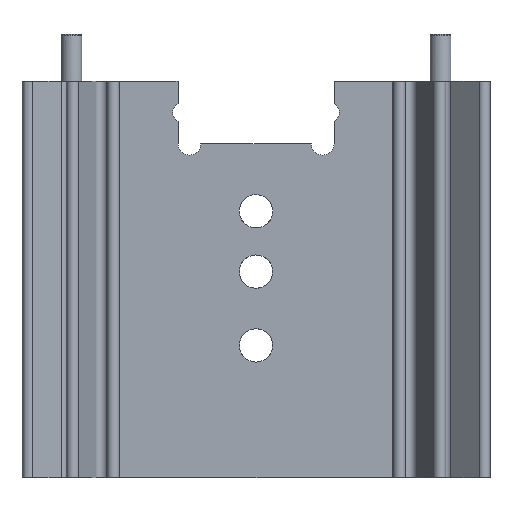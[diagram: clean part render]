
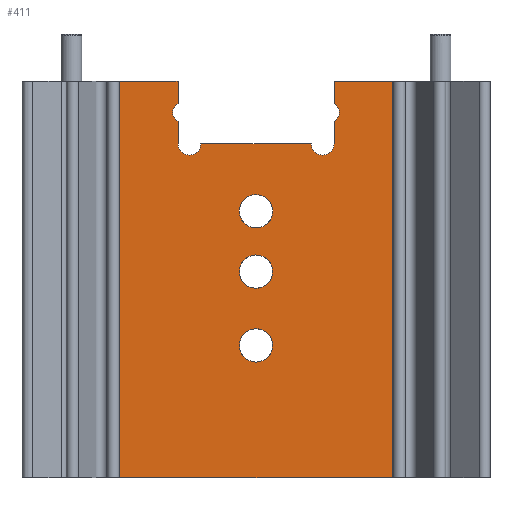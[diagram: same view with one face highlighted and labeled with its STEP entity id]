
A CAD part, front view. The second image highlights one B-rep face of the part: STEP entity #411.
In plain terms, the highlighted planar face has unit normal (0, -1, 0).
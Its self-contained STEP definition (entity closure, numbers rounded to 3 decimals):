
#112=CARTESIAN_POINT('',(1.6,-0.002,12.7));
#113=VERTEX_POINT('',#112);
#114=CARTESIAN_POINT('',(0.,-0.002,12.7));
#115=DIRECTION('',(0.,1.,0.0));
#116=DIRECTION('',(-1.,0.,0.0));
#117=AXIS2_PLACEMENT_3D('',#114,#115,#116);
#118=ELLIPSE('',#117,1.6,1.6);
#119=EDGE_CURVE('',#113,#113,#118,.T.);
#140=CARTESIAN_POINT('',(1.6,-0.002,19.8));
#141=VERTEX_POINT('',#140);
#142=CARTESIAN_POINT('',(0.,-0.002,19.8));
#143=DIRECTION('',(0.,1.,0.0));
#144=DIRECTION('',(-1.,0.,0.0));
#145=AXIS2_PLACEMENT_3D('',#142,#143,#144);
#146=ELLIPSE('',#145,1.6,1.6);
#147=EDGE_CURVE('',#141,#141,#146,.T.);
#168=CARTESIAN_POINT('',(1.6,-0.002,25.6));
#169=VERTEX_POINT('',#168);
#170=CARTESIAN_POINT('',(0.,-0.002,25.6));
#171=DIRECTION('',(0.,1.,0.0));
#172=DIRECTION('',(-1.,0.,0.0));
#173=AXIS2_PLACEMENT_3D('',#170,#171,#172);
#174=ELLIPSE('',#173,1.6,1.6);
#175=EDGE_CURVE('',#169,#169,#174,.T.);
#196=CARTESIAN_POINT('',(-7.5,-0.001,34.234));
#197=VERTEX_POINT('',#196);
#198=CARTESIAN_POINT('',(-7.5,-0.001,35.966));
#199=VERTEX_POINT('',#198);
#200=CARTESIAN_POINT('',(-7.,-0.001,35.1));
#201=DIRECTION('',(0.,1.,0.0));
#202=DIRECTION('',(-1.,0.,0.));
#203=AXIS2_PLACEMENT_3D('',#200,#201,#202);
#204=ELLIPSE('',#203,1.,1.0);
#205=EDGE_CURVE('',#197,#199,#204,.T.);
#238=CARTESIAN_POINT('',(7.5,-0.003,35.966));
#239=VERTEX_POINT('',#238);
#240=CARTESIAN_POINT('',(7.5,-0.003,34.234));
#241=VERTEX_POINT('',#240);
#242=CARTESIAN_POINT('',(7.,-0.003,35.1));
#243=DIRECTION('',(0.,1.,0.0));
#244=DIRECTION('',(1.,0.,0.));
#245=AXIS2_PLACEMENT_3D('',#242,#243,#244);
#246=ELLIPSE('',#245,1.,1.0);
#247=EDGE_CURVE('',#239,#241,#246,.T.);
#289=CARTESIAN_POINT('',(-7.5,-0.001,38.1));
#290=VERTEX_POINT('',#289);
#297=CARTESIAN_POINT('',(-7.5,-0.001,35.966));
#298=DIRECTION('',(0.0,0.0,1.0));
#299=VECTOR('',#298,2.134);
#300=LINE('',#297,#299);
#301=EDGE_CURVE('',#199,#290,#300,.T.);
#306=CARTESIAN_POINT('',(13.099,-0.004,0.0));
#307=DIRECTION('',(0.,-1.,0.0));
#308=DIRECTION('',(0.0,0.0,-1.0));
#309=AXIS2_PLACEMENT_3D('',#306,#307,#308);
#310=PLANE('',#309);
#311=ORIENTED_EDGE('',*,*,#205,.T.);
#312=ORIENTED_EDGE('',*,*,#301,.T.);
#313=CARTESIAN_POINT('',(-13.101,0.,38.1));
#314=VERTEX_POINT('',#313);
#315=CARTESIAN_POINT('',(-7.5,-0.001,38.1));
#316=DIRECTION('',(-1.,0.,0.0));
#317=VECTOR('',#316,5.601);
#318=LINE('',#315,#317);
#319=EDGE_CURVE('',#290,#314,#318,.T.);
#320=ORIENTED_EDGE('',*,*,#319,.T.);
#321=CARTESIAN_POINT('',(-13.101,0.,0.0));
#322=VERTEX_POINT('',#321);
#323=CARTESIAN_POINT('',(-13.101,0.,0.0));
#324=DIRECTION('',(0.0,0.0,1.0));
#325=VECTOR('',#324,38.1);
#326=LINE('',#323,#325);
#327=EDGE_CURVE('',#322,#314,#326,.T.);
#328=ORIENTED_EDGE('',*,*,#327,.F.);
#329=CARTESIAN_POINT('',(13.099,-0.004,0.0));
#330=VERTEX_POINT('',#329);
#331=CARTESIAN_POINT('',(13.099,-0.004,0.0));
#332=DIRECTION('',(-1.,0.,0.0));
#333=VECTOR('',#332,26.2);
#334=LINE('',#331,#333);
#335=EDGE_CURVE('',#330,#322,#334,.T.);
#336=ORIENTED_EDGE('',*,*,#335,.F.);
#337=CARTESIAN_POINT('',(13.099,-0.004,38.1));
#338=VERTEX_POINT('',#337);
#339=CARTESIAN_POINT('',(13.099,-0.004,0.0));
#340=DIRECTION('',(0.0,0.0,1.0));
#341=VECTOR('',#340,38.1);
#342=LINE('',#339,#341);
#343=EDGE_CURVE('',#330,#338,#342,.T.);
#344=ORIENTED_EDGE('',*,*,#343,.T.);
#345=CARTESIAN_POINT('',(7.5,-0.003,38.1));
#346=VERTEX_POINT('',#345);
#347=CARTESIAN_POINT('',(13.099,-0.004,38.1));
#348=DIRECTION('',(-1.,0.,0.0));
#349=VECTOR('',#348,5.599);
#350=LINE('',#347,#349);
#351=EDGE_CURVE('',#338,#346,#350,.T.);
#352=ORIENTED_EDGE('',*,*,#351,.T.);
#353=CARTESIAN_POINT('',(7.5,-0.003,38.1));
#354=DIRECTION('',(0.0,0.0,-1.0));
#355=VECTOR('',#354,2.134);
#356=LINE('',#353,#355);
#357=EDGE_CURVE('',#346,#239,#356,.T.);
#358=ORIENTED_EDGE('',*,*,#357,.T.);
#359=ORIENTED_EDGE('',*,*,#247,.T.);
#360=CARTESIAN_POINT('',(7.5,-0.003,32.1));
#361=VERTEX_POINT('',#360);
#362=CARTESIAN_POINT('',(7.5,-0.003,34.234));
#363=DIRECTION('',(0.0,0.0,-1.0));
#364=VECTOR('',#363,2.134);
#365=LINE('',#362,#364);
#366=EDGE_CURVE('',#241,#361,#365,.T.);
#367=ORIENTED_EDGE('',*,*,#366,.T.);
#368=CARTESIAN_POINT('',(5.3,-0.003,32.1));
#369=VERTEX_POINT('',#368);
#370=CARTESIAN_POINT('',(6.4,-0.003,32.1));
#371=DIRECTION('',(0.,1.,0.0));
#372=DIRECTION('',(-1.,0.,0.0));
#373=AXIS2_PLACEMENT_3D('',#370,#371,#372);
#374=ELLIPSE('',#373,1.1,1.1);
#375=EDGE_CURVE('',#361,#369,#374,.T.);
#376=ORIENTED_EDGE('',*,*,#375,.T.);
#377=CARTESIAN_POINT('',(-5.3,-0.001,32.1));
#378=VERTEX_POINT('',#377);
#379=CARTESIAN_POINT('',(5.3,-0.003,32.1));
#380=DIRECTION('',(-1.,0.,0.0));
#381=VECTOR('',#380,10.6);
#382=LINE('',#379,#381);
#383=EDGE_CURVE('',#369,#378,#382,.T.);
#384=ORIENTED_EDGE('',*,*,#383,.T.);
#385=CARTESIAN_POINT('',(-7.5,-0.001,32.1));
#386=VERTEX_POINT('',#385);
#387=CARTESIAN_POINT('',(-6.4,-0.001,32.1));
#388=DIRECTION('',(0.,1.,0.0));
#389=DIRECTION('',(-1.,0.,0.0));
#390=AXIS2_PLACEMENT_3D('',#387,#388,#389);
#391=ELLIPSE('',#390,1.1,1.1);
#392=EDGE_CURVE('',#378,#386,#391,.T.);
#393=ORIENTED_EDGE('',*,*,#392,.T.);
#394=CARTESIAN_POINT('',(-7.5,-0.001,32.1));
#395=DIRECTION('',(0.0,0.0,1.0));
#396=VECTOR('',#395,2.134);
#397=LINE('',#394,#396);
#398=EDGE_CURVE('',#386,#197,#397,.T.);
#399=ORIENTED_EDGE('',*,*,#398,.T.);
#400=EDGE_LOOP('',(#311,#312,#320,#328,#336,#344,#352,#358,#359,#367,#376,#384,#393,#399));
#401=FACE_OUTER_BOUND('',#400,.T.);
#402=ORIENTED_EDGE('',*,*,#175,.T.);
#403=EDGE_LOOP('',(#402));
#404=FACE_BOUND('',#403,.T.);
#405=ORIENTED_EDGE('',*,*,#147,.T.);
#406=EDGE_LOOP('',(#405));
#407=FACE_BOUND('',#406,.T.);
#408=ORIENTED_EDGE('',*,*,#119,.T.);
#409=EDGE_LOOP('',(#408));
#410=FACE_BOUND('',#409,.T.);
#411=ADVANCED_FACE('',(#401,#404,#407,#410),#310,.T.);
